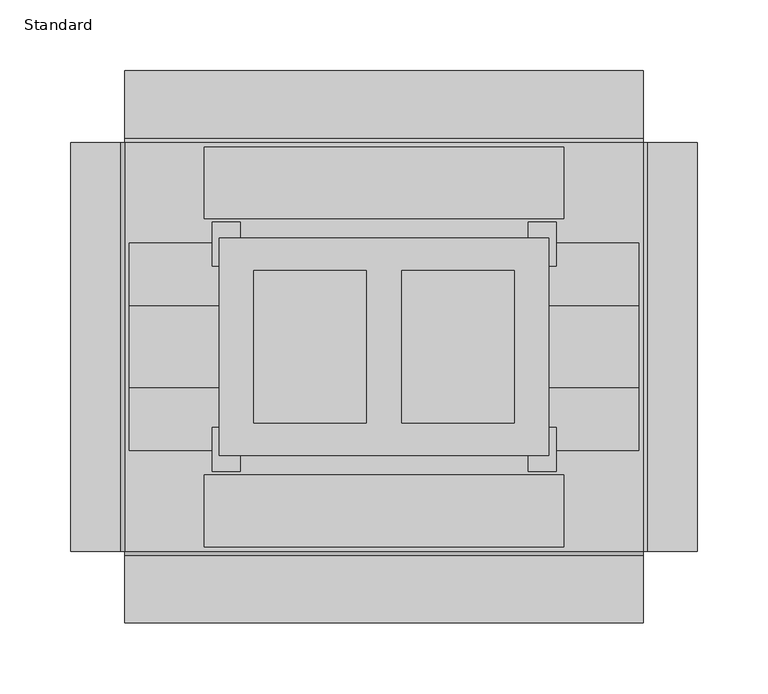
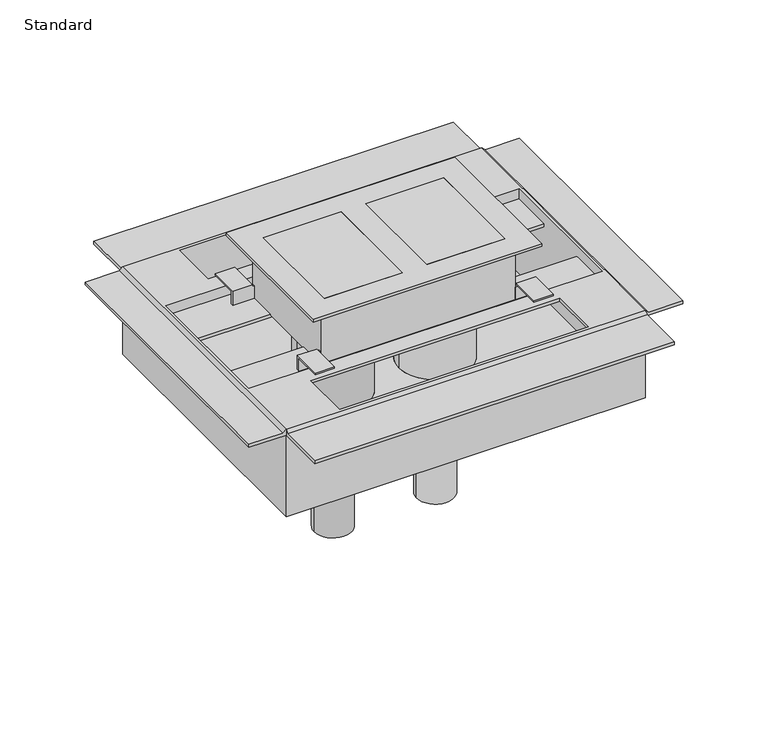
"""IFC4 building model written with IfcOpenShell, lengths in millimetres: proxy geometry, Floor_Box-OmniBox_Series-Wiremold-880_Steel-2_Gang-Fire_Classified : Standard."""

import ifcopenshell
import ifcopenshell.guid

model = None  # the IFC model being written
_history = None  # IfcOwnerHistory: only IFC2X3 demands one
_inside = {}  # id of a spatial element -> (the spatial element, [elements in it])
_under = {}  # id of a project, library or spatial element -> (it, [spatial elements below it])
_declared = {}  # id of a project -> (the project, [libraries it declares])
_typed = {}  # id of a type object -> (the type object, [elements of that type])
_made_of = {}  # id of a material, layer set ... -> (it, [elements and type objects made of it])


def new_model(schema):
    """Start an empty IFC model of exactly this schema.

    Asked for "IFC4X3", IfcOpenShell would pick the latest addendum, in which some entities
    have other attributes; the version numbers below select the first issue.
    IFC2X3 requires an IfcOwnerHistory on every rooted entity: one is made here for all.
    """
    global model, _history
    if schema == "IFC4X3":
        model = ifcopenshell.file(schema_version=(4, 3, 0, 0))
    else:
        model = ifcopenshell.file(schema=schema)
    _inside.clear()
    _under.clear()
    _declared.clear()
    _typed.clear()
    _made_of.clear()
    _history = None
    if model.schema == "IFC2X3":
        org = make("IfcOrganization", Name="unknown")
        user = make(
            "IfcPersonAndOrganization",
            ThePerson=make("IfcPerson", FamilyName="unknown"),
            TheOrganization=org,
        )
        app = make(
            "IfcApplication",
            ApplicationDeveloper=org,
            Version="unknown",
            ApplicationFullName="unknown",
            ApplicationIdentifier="unknown",
        )
        _history = make(
            "IfcOwnerHistory",
            OwningUser=user,
            OwningApplication=app,
            ChangeAction="ADDED",
            CreationDate=0,
        )
    return model


def make(cls, **values):
    """One entity of the class cls with the attributes given. An attribute that is None is left unset."""
    return model.create_entity(
        cls, **{name: value for name, value in values.items() if value is not None}
    )


def rooted(cls, **values):
    """An entity with a GlobalId (a new one), such as an element, a storey or a relation."""
    return make(cls, GlobalId=ifcopenshell.guid.new(), OwnerHistory=_history, **values)


def si_unit(unit_type, name, prefix=None):
    """IfcSIUnit, for example si_unit("LENGTHUNIT", "METRE", prefix="MILLI")."""
    return make("IfcSIUnit", UnitType=unit_type, Prefix=prefix, Name=name)


def assignment(units):
    """IfcUnitAssignment: the units of a project."""
    return None if units is None else make("IfcUnitAssignment", Units=units)


def point(xyz):
    """IfcCartesianPoint."""
    return None if xyz is None else make("IfcCartesianPoint", Coordinates=xyz)


def direction(xyz):
    """IfcDirection."""
    return None if xyz is None else make("IfcDirection", DirectionRatios=xyz)


def frame(location, z_axis=None, x_axis=None):
    """IfcAxis2Placement3D, a coordinate frame: its origin and axes. An axis left out is left unset."""
    return make(
        "IfcAxis2Placement3D",
        Location=point(location),
        Axis=direction(z_axis),
        RefDirection=direction(x_axis),
    )


def origin():
    """The frame at (0, 0, 0) with its axes left unset."""
    return frame((0.0, 0.0, 0.0))


def origin_with_axes():
    """The frame at (0, 0, 0) with the z axis (0, 0, 1) and the x axis (1, 0, 0) written out."""
    return frame((0.0, 0.0, 0.0), z_axis=(0.0, 0.0, 1.0), x_axis=(1.0, 0.0, 0.0))


def place(relative_to, where):
    """IfcLocalPlacement: puts the frame where relative to a parent placement (None: the world)."""
    return make(
        "IfcLocalPlacement", PlacementRelTo=relative_to, RelativePlacement=where
    )


def context(
    kind, dimensions, precision=None, world=None, true_north=None, identifier=None
):
    """IfcGeometricRepresentationContext, for example the 3D "Model" context."""
    return make(
        "IfcGeometricRepresentationContext",
        ContextIdentifier=identifier,
        ContextType=kind,
        CoordinateSpaceDimension=dimensions,
        Precision=precision,
        WorldCoordinateSystem=world,
        TrueNorth=true_north,
    )


def project(units=None, contexts=None):
    """IfcProject with its units and contexts."""
    return rooted(
        "IfcProject",
        Name="project",
        RepresentationContexts=contexts,
        UnitsInContext=assignment(units),
    )


def spatial(cls, under=None, at=None, **own):
    """A site, building, storey or space (cls), placed at a placement, below another one or the project."""
    s = rooted(cls, ObjectPlacement=at, **own)
    if under is not None:
        _under.setdefault(under.id(), (under, []))[1].append(s)
    return s


def polyline(points):
    """IfcPolyline through the points."""
    return make("IfcPolyline", Points=[point(p) for p in points])


def circle_curve(where, radius):
    """IfcCircle in the frame where."""
    return make("IfcCircle", Position=where, Radius=radius)


def outline(outer, holes=None, kind="AREA"):
    """IfcArbitraryClosedProfileDef: a profile drawn as a closed curve; with holes, ...WithVoids."""
    if holes is None:
        return make("IfcArbitraryClosedProfileDef", ProfileType=kind, OuterCurve=outer)
    return make(
        "IfcArbitraryProfileDefWithVoids",
        ProfileType=kind,
        OuterCurve=outer,
        InnerCurves=holes,
    )


def extrude(swept, where, along, depth):
    """IfcExtrudedAreaSolid: the profile swept, set in the frame where, extruded along a direction by depth."""
    return make(
        "IfcExtrudedAreaSolid",
        SweptArea=swept,
        Position=where,
        ExtrudedDirection=direction(along),
        Depth=depth,
    )


def faces_of(points, faces, orient=None, outer=None):
    """IfcFace entities. A face is a list of loops; a loop is a list of indices into points, from 0.

    orient and outer hold one flag for each loop. By default every Orientation is true, the
    first loop of a face is its IfcFaceOuterBound and the others are IfcFaceBound.
    """
    made = []
    for i, loops in enumerate(faces):
        bounds = []
        for j, loop in enumerate(loops):
            is_outer = j == 0 if outer is None else outer[i][j]
            bounds.append(
                make(
                    "IfcFaceOuterBound" if is_outer else "IfcFaceBound",
                    Bound=make("IfcPolyLoop", Polygon=[points[k] for k in loop]),
                    Orientation=True if orient is None else orient[i][j],
                )
            )
        made.append(make("IfcFace", Bounds=bounds))
    return made


def faceted_brep(points, faces, orient=None, outer=None, voids=None):
    """IfcFacetedBrep: a solid bounded by flat faces; with voids (closed shells), ...WithVoids."""
    shared = [point(p) for p in points]
    hull = make("IfcClosedShell", CfsFaces=faces_of(shared, faces, orient, outer))
    if voids is None:
        return make("IfcFacetedBrep", Outer=hull)
    return make(
        "IfcFacetedBrepWithVoids",
        Outer=hull,
        Voids=[
            make(cls, CfsFaces=faces_of(shared, fs, o, b)) for cls, fs, o, b in voids
        ],
    )


def shape(context_of_items, identifier, shape_type, items):
    """IfcShapeRepresentation: the items that make up one representation, for example the "Body"."""
    return make(
        "IfcShapeRepresentation",
        ContextOfItems=context_of_items,
        RepresentationIdentifier=identifier,
        RepresentationType=shape_type,
        Items=items,
    )


def source(mapping_origin, context_of_items, identifier, shape_type, items):
    """IfcRepresentationMap: a shape defined once, which mapped items show again and again."""
    return make(
        "IfcRepresentationMap",
        MappingOrigin=mapping_origin,
        MappedRepresentation=shape(context_of_items, identifier, shape_type, items),
    )


def transform(
    local_origin,
    x_axis=None,
    y_axis=None,
    z_axis=None,
    scale=None,
    scale2=None,
    scale3=None,
    uniform=True,
):
    """IfcCartesianTransformationOperator3D, or its non-uniform kind. x_axis, y_axis, z_axis: its Axis1, 2, 3."""
    if uniform:
        return make(
            "IfcCartesianTransformationOperator3D",
            Axis1=direction(x_axis),
            Axis2=direction(y_axis),
            LocalOrigin=point(local_origin),
            Scale=scale,
            Axis3=direction(z_axis),
        )
    return make(
        "IfcCartesianTransformationOperator3DnonUniform",
        Axis1=direction(x_axis),
        Axis2=direction(y_axis),
        LocalOrigin=point(local_origin),
        Scale=scale,
        Axis3=direction(z_axis),
        Scale2=scale2,
        Scale3=scale3,
    )


def mapped(mapping_source, mapping_target):
    """IfcMappedItem: shows the shape of a source again, moved by a transform."""
    return make(
        "IfcMappedItem", MappingSource=mapping_source, MappingTarget=mapping_target
    )


def made_of(thing, what):
    """Note that an element or type object is made of a material, layer set ...; save() writes the relation."""
    if what is not None:
        _made_of.setdefault(what.id(), (what, []))[1].append(thing)
    return thing


def element(
    cls,
    number,
    at=None,
    inside=None,
    cuts=None,
    type_object=None,
    material=None,
    context=None,
    identifier="Body",
    shape_type=None,
    held_by="IfcProductDefinitionShape",
    body=None,
    shapes=None,
    **own,
):
    """One element of the class cls, such as IfcWall. Its Tag is "e" and its number.

    at: its placement. inside: the storey or other place that contains it. cuts: it is an
    opening in that element (IfcRelVoidsElement). A single representation is given by context,
    identifier, shape_type and body (its items); several are given by shapes. held_by: the class
    of the entity that holds the representations. save() writes the other relations.
    """
    e = rooted(cls, Tag="e%d" % number, ObjectPlacement=at, **own)
    if body is not None:
        shapes = [shape(context, identifier, shape_type, body)]
    if shapes is not None:
        e.Representation = make(held_by, Representations=shapes)
    if inside is not None:
        _inside.setdefault(inside.id(), (inside, []))[1].append(e)
    if cuts is not None:
        rooted(
            "IfcRelVoidsElement", RelatingBuildingElement=cuts, RelatedOpeningElement=e
        )
    if type_object is not None:
        _typed.setdefault(type_object.id(), (type_object, []))[1].append(e)
    return made_of(e, material)


def aggregate(whole, parts):
    """IfcRelAggregates: a whole, such as a stair, and the parts it consists of."""
    return rooted("IfcRelAggregates", RelatingObject=whole, RelatedObjects=parts)


def save(model, path):
    """Write the relations noted so far, then the file.

    IfcRelAggregates (storeys below a building ...), IfcRelContainedInSpatialStructure (elements
    in a storey), IfcRelDefinesByType, IfcRelAssociatesMaterial and IfcRelDeclares: one each for
    every whole, place, type object, material and project.
    """
    for whole, parts in _under.values():
        aggregate(whole, parts)
    for where, things in _inside.values():
        rooted(
            "IfcRelContainedInSpatialStructure",
            RelatedElements=things,
            RelatingStructure=where,
        )
    for kind, things in _typed.values():
        rooted("IfcRelDefinesByType", RelatedObjects=things, RelatingType=kind)
    for what, things in _made_of.values():
        rooted("IfcRelAssociatesMaterial", RelatedObjects=things, RelatingMaterial=what)
    for by, libraries in _declared.values():
        rooted("IfcRelDeclares", RelatingContext=by, RelatedDefinitions=libraries)
    model.write(path)


def plane_surface(at):
    """IfcPlane: the flat surface through the origin of the frame at, square to its z axis."""
    return make("IfcPlane", Position=at)


def cylinder_surface(at, radius):
    """IfcCylindricalSurface: all points at the distance radius from the z axis of the frame at."""
    return make("IfcCylindricalSurface", Position=at, Radius=radius)


def advanced_brep(points, edges, surfaces, faces):
    """IfcAdvancedBrep: a solid bounded by faces that lie on surfaces and meet in shared edges.

    An edge is (start, end): straight between two places in points (the first is 0);
    or (start, end, curve); or (start, end, curve, False) where it runs against its curve.
    A face is (place in surfaces, loops), or (place, loops, False) where it looks against
    its surface's normal. A loop lists edges by number (the first is 1), with a minus sign
    where the edge is run from its end to its start. The first loop is the outer one.
    """
    corners = [point(p) for p in points]
    vertices = [make("IfcVertexPoint", VertexGeometry=c) for c in corners]
    made = []
    for start, end, *more in edges:
        made.append(
            make(
                "IfcEdgeCurve",
                EdgeStart=vertices[start],
                EdgeEnd=vertices[end],
                EdgeGeometry=more[0] if more else make("IfcPolyline", Points=[corners[start], corners[end]]),
                SameSense=more[1] if len(more) > 1 else True,
            )
        )
    hull = []
    for where, loops, *sense in faces:
        bounds = []
        for j, loop in enumerate(loops):
            ring = [make("IfcOrientedEdge", EdgeElement=made[abs(k) - 1], Orientation=k > 0) for k in loop]
            bounds.append(
                make(
                    "IfcFaceOuterBound" if j == 0 else "IfcFaceBound",
                    Bound=make("IfcEdgeLoop", EdgeList=ring),
                    Orientation=True,
                )
            )
        hull.append(make("IfcAdvancedFace", Bounds=bounds, FaceSurface=surfaces[where], SameSense=sense[0] if sense else True))
    return make("IfcAdvancedBrep", Outer=make("IfcClosedShell", CfsFaces=hull))


def standard_f115a3e9(model_context):
    return source(origin(), model_context, "Body", "SolidModel", [
        extrude(outline(polyline([(12.7127, 53.975), (92.0877, 53.975), (92.0877, -53.975), (12.7127, -53.975), (12.7127, 53.975)])), frame((0.0, 0.0, -9.525), z_axis=(0.0, 0.0, 1.0), x_axis=(1.0, 0.0, 0.0)), (0.0, 0.0, 1.0), 12.7),
        extrude(outline(polyline([(-92.0877, 53.975), (-12.7127, 53.975), (-12.7127, -53.975), (-92.0877, -53.975), (-92.0877, 53.975)])), frame((0.0, 0.0, -9.525), z_axis=(0.0, 0.0, 1.0), x_axis=(1.0, 0.0, 0.0)), (0.0, 0.0, 1.0), 12.7),
        extrude(outline(polyline([(116.6876, 77.0001), (116.6876, -77.0001), (-116.6876, -77.0001), (-116.6876, 77.0001), (116.6876, 77.0001)]), holes=[polyline([(92.0877, 53.975), (12.7127, 53.975), (12.7127, -53.975), (92.0877, -53.975), (92.0877, 53.975)]), polyline([(-12.7127, 53.975), (-92.0877, 53.975), (-92.0877, -53.975), (-12.7127, -53.975), (-12.7127, 53.975)])]), origin_with_axes(), (0.0, 0.0, 1.0), 3.175),
        advanced_brep(
        [(183.515, 144.653, -57.4802), (183.515, 144.653, -145.7452), (-183.515, 144.653, -145.7452), (-183.515, 144.653, -57.4802), (-221.615, 144.653, -57.4802), (-221.615, 144.653, -54.3052), (-186.69, 144.653, -54.3052), (-183.515, 144.653, -51.1302), (183.515, 144.653, -51.1302), (186.69, 144.653, -54.3052), (221.615, 144.653, -54.3052), (221.615, 144.653, -57.4802), (183.515, -144.653, -57.4802), (221.615, -144.653, -57.4802), (221.615, -144.653, -54.3052), (186.69, -144.653, -54.3052), (183.515, -144.653, -51.1302), (-183.515, -144.653, -51.1302), (-186.69, -144.653, -54.3052), (-221.615, -144.653, -54.3052), (-221.615, -144.653, -57.4802), (-183.515, -144.653, -57.4802), (-183.515, -144.653, -145.7452), (183.515, -144.653, -145.7452), (183.515, -141.478, -57.4802), (183.515, -76.708, -57.4802), (183.515, -73.533, -57.4802), (183.515, 73.533, -57.4802), (183.515, 76.708, -57.4802), (183.515, 141.478, -57.4802), (180.34, 141.478, -142.5702), (180.34, -141.478, -142.5702), (180.34, -141.478, -57.4802), (180.34, -138.303, -54.3052), (180.34, -76.708, -54.3052), (180.34, -76.708, -65.1002), (180.34, -29.083, -65.1002), (180.34, -29.083, -61.9252), (180.34, -73.533, -61.9252), (180.34, -73.533, -51.1302), (180.34, 73.533, -51.1302), (180.34, 73.533, -61.9252), (180.34, 29.083, -61.9252), (180.34, 29.083, -65.1002), (180.34, 76.708, -65.1002), (180.34, 76.708, -54.3052), (180.34, 138.303, -54.3052), (180.34, 141.478, -57.4802), (-180.34, 141.478, -142.5702), (-180.34, -141.478, -142.5702), (88.773, 0.0, -142.5702), (15.621, 0.0, -142.5702), (-15.621, 0.0, -142.5702), (-88.773, 0.0, -142.5702), (-180.34, 141.478, -57.4802), (-180.34, 138.303, -54.3052), (-180.34, 76.708, -54.3052), (-180.34, 76.708, -65.1002), (-180.34, 29.083, -65.1002), (-180.34, 29.083, -61.9252), (-180.34, 73.533, -61.9252), (-180.34, 73.533, -51.1302), (-180.34, -73.533, -51.1302), (-180.34, -73.533, -61.9252), (-180.34, -29.083, -61.9252), (-180.34, -29.083, -65.1002), (-180.34, -76.708, -65.1002), (-180.34, -76.708, -54.3052), (-180.34, -138.303, -54.3052), (-180.34, -141.478, -57.4802), (-183.515, 141.478, -57.4802), (-183.515, 76.708, -57.4802), (-183.515, 73.533, -57.4802), (-183.515, -73.533, -57.4802), (-183.515, -76.708, -57.4802), (-183.515, -141.478, -57.4802), (15.621, 0.0, -145.7452), (88.773, 0.0, -145.7452), (-88.773, 0.0, -145.7452), (-15.621, 0.0, -145.7452), (127.0, 90.678, -51.1302), (-127.0, 90.678, -51.1302), (-127.0, 141.478, -51.1302), (127.0, 141.478, -51.1302), (-127.0, -141.478, -51.1302), (-127.0, -90.678, -51.1302), (127.0, -90.678, -51.1302), (127.0, -141.478, -51.1302), (-183.515, -147.828, -54.3052), (-183.515, -195.453, -57.4802), (-183.515, -195.453, -54.3052), (-183.515, 147.828, -54.3052), (-183.515, 195.453, -54.3052), (-183.515, 195.453, -57.4802), (183.515, -147.828, -54.3052), (183.515, -195.453, -54.3052), (183.515, -195.453, -57.4802), (183.515, 195.453, -57.4802), (183.515, 195.453, -54.3052), (183.515, 147.828, -54.3052), (-127.0, -141.478, -57.4802), (127.0, -141.478, -57.4802), (127.0, 141.478, -57.4802), (-127.0, 141.478, -57.4802), (127.0, -138.303, -54.3052), (127.0, -90.678, -54.3052), (-127.0, -90.678, -54.3052), (-127.0, -138.303, -54.3052), (127.0, 138.303, -54.3052), (-127.0, 138.303, -54.3052), (-127.0, 90.678, -54.3052), (127.0, 90.678, -54.3052), (33.147, 0.0, -212.8012), (71.247, 0.0, -212.8012), (88.773, 0.0, -212.8012), (15.621, 0.0, -212.8012), (88.773, 0.0, -75.0062), (15.621, 0.0, -75.0062), (52.197, 0.0, -289.0012), (71.247, 0.0, -289.0012), (33.147, 0.0, -289.0012), (52.197, 0.0, -75.0062), (-15.621, 0.0, -212.8012), (-88.773, 0.0, -212.8012), (-71.247, 0.0, -212.8012), (-33.147, 0.0, -212.8012), (-15.621, 0.0, -75.0062), (-88.773, 0.0, -75.0062), (-33.147, 0.0, -289.0012), (-71.247, 0.0, -289.0012), (-52.197, 0.0, -289.0012), (-52.197, 0.0, -75.0062)],
        [
            (0, 1),
            (1, 2),
            (2, 3),
            (3, 0),
            (3, 4),
            (4, 5),
            (5, 6),
            (6, 7),
            (7, 3),
            (8, 9),
            (9, 10),
            (10, 11),
            (11, 0),
            (0, 8),
            (12, 13),
            (13, 14),
            (14, 15),
            (15, 16),
            (16, 12),
            (17, 18),
            (18, 19),
            (19, 20),
            (20, 21),
            (21, 17),
            (21, 22),
            (22, 23),
            (23, 12),
            (12, 21),
            (11, 13),
            (12, 24),
            (24, 25),
            (25, 26),
            (26, 27),
            (27, 28),
            (28, 29),
            (29, 0),
            (10, 14),
            (9, 15),
            (30, 31),
            (31, 32),
            (32, 33),
            (33, 34),
            (34, 35),
            (35, 36),
            (36, 37),
            (37, 38),
            (38, 39),
            (39, 40),
            (40, 41),
            (41, 42),
            (42, 43),
            (43, 44),
            (44, 45),
            (45, 46),
            (46, 47),
            (47, 30),
            (30, 48),
            (48, 49),
            (49, 31),
            (50, 51, circle_curve(frame((52.197, 0.0, -142.5702), z_axis=(0.0, 0.0, -1.0), x_axis=(1.0, 0.0, 0.0)), 36.576)),
            (51, 50, circle_curve(frame((52.197, 0.0, -142.5702), z_axis=(0.0, 0.0, -1.0), x_axis=(1.0, 0.0, 0.0)), 36.576)),
            (52, 53, circle_curve(frame((-52.197, 0.0, -142.5702), z_axis=(0.0, 0.0, -1.0), x_axis=(-1.0, 0.0, 0.0)), 36.576)),
            (53, 52, circle_curve(frame((-52.197, 0.0, -142.5702), z_axis=(0.0, 0.0, -1.0), x_axis=(-1.0, 0.0, 0.0)), 36.576)),
            (48, 54),
            (54, 55),
            (55, 56),
            (56, 57),
            (57, 58),
            (58, 59),
            (59, 60),
            (60, 61),
            (61, 62),
            (62, 63),
            (63, 64),
            (64, 65),
            (65, 66),
            (66, 67),
            (67, 68),
            (68, 69),
            (69, 49),
            (5, 19),
            (18, 6),
            (4, 20),
            (3, 70),
            (70, 71),
            (71, 72),
            (72, 73),
            (73, 74),
            (74, 75),
            (75, 21),
            (2, 22),
            (1, 23),
            (76, 77, circle_curve(frame((52.197, 0.0, -145.7452), z_axis=(0.0, 0.0, 1.0), x_axis=(1.0, 0.0, 0.0)), 36.576)),
            (77, 76, circle_curve(frame((52.197, 0.0, -145.7452), z_axis=(0.0, 0.0, 1.0), x_axis=(1.0, 0.0, 0.0)), 36.576)),
            (78, 79, circle_curve(frame((-52.197, 0.0, -145.7452), z_axis=(0.0, 0.0, 1.0), x_axis=(-1.0, 0.0, 0.0)), 36.576)),
            (79, 78, circle_curve(frame((-52.197, 0.0, -145.7452), z_axis=(0.0, 0.0, 1.0), x_axis=(-1.0, 0.0, 0.0)), 36.576)),
            (17, 7),
            (17, 16),
            (16, 8),
            (8, 7),
            (61, 40),
            (39, 62),
            (80, 81),
            (81, 82),
            (82, 83),
            (83, 80),
            (84, 85),
            (85, 86),
            (86, 87),
            (87, 84),
            (88, 17),
            (21, 89),
            (89, 90),
            (90, 88),
            (7, 91),
            (91, 92),
            (92, 93),
            (93, 3),
            (94, 95),
            (95, 96),
            (96, 12),
            (16, 94),
            (0, 97),
            (97, 98),
            (98, 99),
            (99, 8),
            (69, 100),
            (100, 84),
            (87, 101),
            (101, 32),
            (47, 102),
            (102, 83),
            (82, 103),
            (103, 54),
            (91, 99),
            (98, 92),
            (97, 93),
            (96, 89),
            (95, 90),
            (94, 88),
            (38, 63),
            (37, 64),
            (36, 65),
            (35, 66),
            (34, 67),
            (33, 104),
            (104, 105),
            (105, 106),
            (106, 107),
            (107, 68),
            (101, 104),
            (107, 100),
            (46, 108),
            (108, 102),
            (103, 109),
            (109, 55),
            (45, 56),
            (109, 110),
            (110, 111),
            (111, 108),
            (44, 57),
            (43, 58),
            (42, 59),
            (41, 60),
            (112, 113, circle_curve(frame((52.197, 0.0, -212.8012), z_axis=(0.0, 0.0, 1.0), x_axis=(1.0, 0.0, 0.0)), 19.05)),
            (113, 114),
            (114, 115, circle_curve(frame((52.197, 0.0, -212.8012), z_axis=(0.0, 0.0, -1.0), x_axis=(1.0, 0.0, 0.0)), 36.576)),
            (115, 112),
            (113, 112, circle_curve(frame((52.197, 0.0, -212.8012), z_axis=(0.0, 0.0, 1.0), x_axis=(1.0, 0.0, 0.0)), 19.05)),
            (115, 114, circle_curve(frame((52.197, 0.0, -212.8012), z_axis=(0.0, 0.0, -1.0), x_axis=(1.0, 0.0, 0.0)), 36.576)),
            (114, 77),
            (76, 115),
            (116, 117, circle_curve(frame((52.197, 0.0, -75.0062), z_axis=(0.0, 0.0, -1.0), x_axis=(1.0, 0.0, 0.0)), 36.576)),
            (117, 51),
            (50, 116),
            (117, 116, circle_curve(frame((52.197, 0.0, -75.0062), z_axis=(0.0, 0.0, -1.0), x_axis=(1.0, 0.0, 0.0)), 36.576)),
            (118, 119),
            (119, 120, circle_curve(frame((52.197, 0.0, -289.0012), z_axis=(0.0, 0.0, -1.0), x_axis=(1.0, 0.0, 0.0)), 19.05)),
            (120, 118),
            (120, 119, circle_curve(frame((52.197, 0.0, -289.0012), z_axis=(0.0, 0.0, -1.0), x_axis=(1.0, 0.0, 0.0)), 19.05)),
            (112, 120),
            (119, 113),
            (116, 121),
            (121, 117),
            (122, 123, circle_curve(frame((-52.197, 0.0, -212.8012), z_axis=(0.0, 0.0, -1.0), x_axis=(-1.0, 0.0, 0.0)), 36.576)),
            (123, 124),
            (124, 125, circle_curve(frame((-52.197, 0.0, -212.8012), z_axis=(0.0, 0.0, 1.0), x_axis=(-1.0, 0.0, 0.0)), 19.05)),
            (125, 122),
            (123, 122, circle_curve(frame((-52.197, 0.0, -212.8012), z_axis=(0.0, 0.0, -1.0), x_axis=(-1.0, 0.0, 0.0)), 36.576)),
            (125, 124, circle_curve(frame((-52.197, 0.0, -212.8012), z_axis=(0.0, 0.0, 1.0), x_axis=(-1.0, 0.0, 0.0)), 19.05)),
            (122, 79),
            (78, 123),
            (126, 127, circle_curve(frame((-52.197, 0.0, -75.0062), z_axis=(0.0, 0.0, -1.0), x_axis=(-1.0, 0.0, 0.0)), 36.576)),
            (127, 53),
            (52, 126),
            (127, 126, circle_curve(frame((-52.197, 0.0, -75.0062), z_axis=(0.0, 0.0, -1.0), x_axis=(-1.0, 0.0, 0.0)), 36.576)),
            (128, 129, circle_curve(frame((-52.197, 0.0, -289.0012), z_axis=(0.0, 0.0, -1.0), x_axis=(-1.0, 0.0, 0.0)), 19.05)),
            (129, 130),
            (130, 128),
            (129, 128, circle_curve(frame((-52.197, 0.0, -289.0012), z_axis=(0.0, 0.0, -1.0), x_axis=(-1.0, 0.0, 0.0)), 19.05)),
            (124, 129),
            (128, 125),
            (126, 131),
            (131, 127),
            (110, 81),
            (80, 111),
            (106, 85),
            (86, 105),
        ],
        [
            plane_surface(frame((183.515, 144.653, -145.7452), z_axis=(0.0, 1.0, 0.0), x_axis=(0.0, 0.0, -1.0))),
            plane_surface(frame((183.515, -144.653, -145.7452), z_axis=(0.0, -1.0, 0.0), x_axis=(0.0, 0.0, 1.0))),
            plane_surface(frame((221.615, 144.653, -57.4802), z_axis=(0.0, 0.0, -1.0), x_axis=(0.0, -1.0, 0.0))),
            plane_surface(frame((221.615, 144.653, -54.3052), z_axis=(1.0, 0.0, 0.0), x_axis=(0.0, -1.0, 0.0))),
            plane_surface(frame((186.69, 144.653, -54.3052), z_axis=(0.0, 0.0, 1.0), x_axis=(0.0, -1.0, 0.0))),
            plane_surface(frame((180.34, 144.653, -142.5702), z_axis=(-1.0, 0.0, 0.0), x_axis=(0.0, -1.0, 0.0))),
            plane_surface(frame((-180.34, 144.653, -142.5702), z_axis=(0.0, 0.0, 1.0), x_axis=(0.0, -1.0, 0.0))),
            plane_surface(frame((-180.34, 144.653, -51.1302), z_axis=(1.0, 0.0, 0.0), x_axis=(0.0, -1.0, 0.0))),
            plane_surface(frame((-221.615, 144.653, -54.3052), z_axis=(0.0, 0.0, 1.0), x_axis=(0.0, -1.0, 0.0))),
            plane_surface(frame((-221.615, 144.653, -57.4802), z_axis=(-1.0, 0.0, 0.0), x_axis=(0.0, -1.0, 0.0))),
            plane_surface(frame((-183.515, 144.653, -57.4802), z_axis=(0.0, 0.0, -1.0), x_axis=(0.0, -1.0, 0.0))),
            plane_surface(frame((-183.515, 144.653, -145.7452), z_axis=(-1.0, 0.0, 0.0), x_axis=(0.0, -1.0, 0.0))),
            plane_surface(frame((183.515, 144.653, -145.7452), z_axis=(0.0, 0.0, -1.0), x_axis=(0.0, -1.0, 0.0))),
            plane_surface(frame((183.515, 144.653, -57.4802), z_axis=(1.0, 0.0, 0.0), x_axis=(0.0, -1.0, 0.0))),
            plane_surface(frame((-186.69, 144.653, -54.3052), z_axis=(-0.7071067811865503, 0.0, 0.7071067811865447), x_axis=(0.0, -1.0, 0.0))),
            plane_surface(frame((-183.515, 144.653, -51.1302), z_axis=(0.0, 0.0, 1.0), x_axis=(0.0, -1.0, 0.0))),
            plane_surface(frame((183.515, 144.653, -51.1302), z_axis=(0.707106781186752, 0.0, 0.7071067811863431), x_axis=(0.0, -1.0, 0.0))),
            plane_surface(frame((-183.515, -147.828, -54.3052), z_axis=(-1.0, 0.0, 0.0), x_axis=(0.0, 0.7071067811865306, 0.7071067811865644))),
            plane_surface(frame((183.515, -147.828, -54.3052), z_axis=(1.0, 0.0, 0.0), x_axis=(0.0, -0.7071067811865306, -0.7071067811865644))),
            plane_surface(frame((-183.515, -141.478, -57.4802), z_axis=(0.0, 1.0, 0.0), x_axis=(1.0, 0.0, 0.0))),
            plane_surface(frame((-183.515, 141.478, -142.5702), z_axis=(0.0, -1.0, 0.0), x_axis=(1.0, 0.0, 0.0))),
            plane_surface(frame((-183.515, 147.828, -54.3052), z_axis=(0.0, 0.0, 1.0), x_axis=(1.0, 0.0, 0.0))),
            plane_surface(frame((-183.515, 195.453, -54.3052), z_axis=(0.0, 1.0, 0.0), x_axis=(1.0, 0.0, 0.0))),
            plane_surface(frame((-183.515, 195.453, -57.4802), z_axis=(0.0, 0.0, -1.0), x_axis=(1.0, 0.0, 0.0))),
            plane_surface(frame((-183.515, -144.653, -57.4802), z_axis=(0.0, 0.0, -1.0), x_axis=(1.0, 0.0, 0.0))),
            plane_surface(frame((-183.515, -195.453, -57.4802), z_axis=(0.0, -1.0, 0.0), x_axis=(1.0, 0.0, 0.0))),
            plane_surface(frame((-183.515, -195.453, -54.3052), z_axis=(0.0, 0.0, 1.0), x_axis=(1.0, 0.0, 0.0))),
            plane_surface(frame((-183.515, -147.828, -54.3052), z_axis=(0.0, -0.7071067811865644, 0.7071067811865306), x_axis=(1.0, 0.0, 0.0))),
            plane_surface(frame((-183.515, -73.533, -51.1302), z_axis=(0.0, 1.0, 0.0), x_axis=(1.0, 0.0, 0.0))),
            plane_surface(frame((-183.515, -73.533, -61.9252), z_axis=(0.0, 0.0, 1.0), x_axis=(1.0, 0.0, 0.0))),
            plane_surface(frame((-183.515, -29.083, -61.9252), z_axis=(0.0, 1.0, 0.0), x_axis=(1.0, 0.0, 0.0))),
            plane_surface(frame((-183.515, -29.083, -65.1002), z_axis=(0.0, 0.0, -1.0), x_axis=(1.0, 0.0, 0.0))),
            plane_surface(frame((-183.515, -76.708, -65.1002), z_axis=(0.0, -1.0, 0.0), x_axis=(1.0, 0.0, 0.0))),
            plane_surface(frame((-183.515, -76.708, -54.3052), z_axis=(0.0, 0.0, -1.0), x_axis=(1.0, 0.0, 0.0))),
            plane_surface(frame((-183.515, -138.303, -54.3052), z_axis=(0.0, 0.7071067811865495, -0.7071067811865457), x_axis=(1.0, 0.0, 0.0))),
            plane_surface(frame((-183.515, 141.478, -57.4802), z_axis=(0.0, -0.7071067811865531, -0.7071067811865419), x_axis=(1.0, 0.0, 0.0))),
            plane_surface(frame((-183.515, 138.303, -54.3052), z_axis=(0.0, 0.0, -1.0), x_axis=(1.0, 0.0, 0.0))),
            plane_surface(frame((-183.515, 76.708, -54.3052), z_axis=(0.0, 1.0, 0.0), x_axis=(1.0, 0.0, 0.0))),
            plane_surface(frame((-183.515, 76.708, -65.1002), z_axis=(0.0, 0.0, -1.0), x_axis=(1.0, 0.0, 0.0))),
            plane_surface(frame((-183.515, 29.083, -65.1002), z_axis=(0.0, -1.0, 0.0), x_axis=(1.0, 0.0, 0.0))),
            plane_surface(frame((-183.515, 29.083, -61.9252), z_axis=(0.0, 0.0, 1.0), x_axis=(1.0, 0.0, 0.0))),
            plane_surface(frame((-183.515, 73.533, -61.9252), z_axis=(0.0, -1.0, 0.0), x_axis=(1.0, 0.0, 0.0))),
            plane_surface(frame((-183.515, 144.653, -51.1302), z_axis=(0.0, 0.7071067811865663, 0.7071067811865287), x_axis=(1.0, 0.0, 0.0))),
            plane_surface(frame((52.197, 0.0, -212.8012), z_axis=(0.0, 0.0, -1.0), x_axis=(1.0, 0.0, 0.0))),
            cylinder_surface(frame((52.197, 0.0, 222.1738), z_axis=(0.0, 0.0, -1.0), x_axis=(1.0, 0.0, 0.0)), 36.576),
            plane_surface(frame((52.197, 0.0, -289.0012), z_axis=(0.0, 0.0, -1.0), x_axis=(1.0, 0.0, 0.0))),
            cylinder_surface(frame((52.197, 0.0, 222.1738), z_axis=(0.0, 0.0, -1.0), x_axis=(1.0, 0.0, 0.0)), 19.05),
            plane_surface(frame((52.197, 0.0, -75.0062), z_axis=(0.0, 0.0, 1.0), x_axis=(1.0, 0.0, 0.0))),
            plane_surface(frame((-52.197, 0.0, -212.8012), z_axis=(0.0, 0.0, -1.0), x_axis=(-1.0, 0.0, 0.0))),
            cylinder_surface(frame((-52.197, 0.0, 222.1738), z_axis=(0.0, 0.0, 1.0), x_axis=(-1.0, 0.0, 0.0)), 36.576),
            plane_surface(frame((-52.197, 0.0, -289.0012), z_axis=(0.0, 0.0, -1.0), x_axis=(-1.0, 0.0, 0.0))),
            cylinder_surface(frame((-52.197, 0.0, 222.1738), z_axis=(0.0, 0.0, 1.0), x_axis=(-1.0, 0.0, 0.0)), 19.05),
            plane_surface(frame((-52.197, 0.0, -75.0062), z_axis=(0.0, 0.0, 1.0), x_axis=(-1.0, 0.0, 0.0))),
            plane_surface(frame((-127.0, 90.678, 307.975), z_axis=(0.0, 1.0, 0.0), x_axis=(0.0, 0.0, -1.0))),
            plane_surface(frame((127.0, 90.678, 307.975), z_axis=(-1.0, 0.0, 0.0), x_axis=(0.0, 0.0, -1.0))),
            plane_surface(frame((-127.0, 141.478, 307.975), z_axis=(1.0, 0.0, 0.0), x_axis=(0.0, 0.0, -1.0))),
            plane_surface(frame((-127.0, -90.678, 307.975), z_axis=(1.0, 0.0, 0.0), x_axis=(0.0, 0.0, -1.0))),
            plane_surface(frame((127.0, -141.478, 307.975), z_axis=(-1.0, 0.0, 0.0), x_axis=(0.0, 0.0, -1.0))),
            plane_surface(frame((127.0, -90.678, 307.975), z_axis=(0.0, -1.0, 0.0), x_axis=(0.0, 0.0, -1.0))),
        ],
        [
            (0, [[1, 2, 3, 4]]),
            (0, [[5, 6, 7, 8, 9]]),
            (0, [[10, 11, 12, 13, 14]]),
            (1, [[15, 16, 17, 18, 19]]),
            (1, [[20, 21, 22, 23, 24]]),
            (1, [[25, 26, 27, 28]]),
            (2, [[-13, 29, -15, 30, 31, 32, 33, 34, 35, 36]]),
            (3, [[-12, 37, -16, -29]]),
            (4, [[-11, 38, -17, -37]]),
            (5, [[39, 40, 41, 42, 43, 44, 45, 46, 47, 48, 49, 50, 51, 52, 53, 54, 55, 56]]),
            (6, [[-39, 57, 58, 59], [60, 61], [62, 63]]),
            (7, [[-58, 64, 65, 66, 67, 68, 69, 70, 71, 72, 73, 74, 75, 76, 77, 78, 79, 80]]),
            (8, [[-7, 81, -21, 82]]),
            (9, [[-6, 83, -22, -81]]),
            (10, [[-5, 84, 85, 86, 87, 88, 89, 90, -23, -83]]),
            (11, [[-3, 91, -25, -90, -89, -88, -87, -86, -85, -84]]),
            (12, [[-2, 92, -26, -91], [93, 94], [95, 96]]),
            (13, [[-1, -36, -35, -34, -33, -32, -31, -30, -27, -92]]),
            (14, [[-8, -82, -20, 97]]),
            (15, [[98, 99, 100, -97], [-72, 101, -48, 102], [103, 104, 105, 106], [107, 108, 109, 110]]),
            (16, [[-10, -99, -18, -38]]),
            (17, [[111, -24, 112, 113, 114]]),
            (17, [[115, 116, 117, 118, -9]]),
            (18, [[119, 120, 121, -19, 122]]),
            (18, [[123, 124, 125, 126, -14]]),
            (19, [[-40, -59, -80, 127, 128, -110, 129, 130]]),
            (20, [[-56, 131, 132, -105, 133, 134, -64, -57]]),
            (21, [[-116, 135, -125, 136]]),
            (22, [[-117, -136, -124, 137]]),
            (23, [[-118, -137, -123, -4]]),
            (24, [[-112, -28, -121, 138]]),
            (25, [[-113, -138, -120, 139]]),
            (26, [[-114, -139, -119, 140]]),
            (27, [[-111, -140, -122, -98]]),
            (28, [[-102, -47, 141, -73]]),
            (29, [[-141, -46, 142, -74]]),
            (30, [[-142, -45, 143, -75]]),
            (31, [[-143, -44, 144, -76]]),
            (32, [[-144, -43, 145, -77]]),
            (33, [[-145, -42, 146, 147, 148, 149, 150, -78]]),
            (34, [[-41, -130, 151, -146]]),
            (34, [[-79, -150, 152, -127]]),
            (35, [[-55, 153, 154, -131]]),
            (35, [[-65, -134, 155, 156]]),
            (36, [[157, -66, -156, 158, 159, 160, -153, -54]]),
            (37, [[-157, -53, 161, -67]]),
            (38, [[-161, -52, 162, -68]]),
            (39, [[-162, -51, 163, -69]]),
            (40, [[-163, -50, 164, -70]]),
            (41, [[-101, -71, -164, -49]]),
            (42, [[-115, -100, -126, -135]]),
            (43, [[165, 166, 167, 168]]),
            (43, [[-166, 169, -168, 170]]),
            (44, [[-167, 171, -93, 172]]),
            (44, [[173, 174, -60, 175]]),
            (44, [[-170, -172, -94, -171]]),
            (44, [[176, -175, -61, -174]]),
            (45, [[177, 178, 179]]),
            (45, [[-177, -179, 180]]),
            (46, [[-165, 181, -178, 182]]),
            (46, [[-169, -182, -180, -181]]),
            (47, [[-173, 183, 184]]),
            (47, [[-176, -184, -183]]),
            (48, [[185, 186, 187, 188]]),
            (48, [[-186, 189, -188, 190]]),
            (49, [[-185, 191, -95, 192]]),
            (49, [[193, 194, -62, 195]]),
            (49, [[-189, -192, -96, -191]]),
            (49, [[196, -195, -63, -194]]),
            (50, [[197, 198, 199]]),
            (50, [[-198, 200, -199]]),
            (51, [[-187, 201, -197, 202]]),
            (51, [[-190, -202, -200, -201]]),
            (52, [[-193, 203, 204]]),
            (52, [[-196, -204, -203]]),
            (53, [[205, -103, 206, -159]]),
            (54, [[-206, -106, -132, -154, -160]]),
            (55, [[-205, -158, -155, -133, -104]]),
            (56, [[207, -107, -128, -152, -149]]),
            (57, [[-129, -109, 208, -147, -151]]),
            (58, [[-207, -148, -208, -108]]),
        ],
    ),
        extrude(outline(polyline([(-99.21875, 59.928125), (99.21875, 59.928125), (99.21875, -59.928125), (-99.21875, -59.928125), (-99.21875, 59.928125)])), frame((0.0, 0.0, -62.7126), z_axis=(0.0, 0.0, 1.0), x_axis=(1.0, 0.0, 0.0)), (0.0, 0.0, 1.0), 62.7126),
        faceted_brep([(101.97465, -88.388825, -46.355), (121.81205, -88.388825, -46.355), (121.81205, -57.1620786, -46.355), (101.97465, -57.1620786, -46.355), (121.81205, -88.388825, -48.0568), (101.97465, -88.388825, -48.0568), (101.97465, -59.928125, -48.0568), (121.81205, -59.928125, -48.0568), (121.81205, -59.928125, -62.7126), (121.81205, -57.1620786, -62.7126), (99.21875, -57.1620786, -62.7126), (99.21875, -57.1620786, -48.0568), (101.97465, -57.1620786, -48.0568), (99.21875, -59.928125, -48.0568), (99.21875, -59.928125, -62.7126)], [[[0, 1, 2, 3]], [[4, 5, 6, 7]], [[1, 0, 5, 4]], [[2, 1, 4, 7, 8, 9]], [[3, 2, 9, 10, 11, 12]], [[0, 3, 12, 6, 5]], [[11, 13, 6, 12]], [[14, 10, 9, 8]], [[14, 8, 7, 6, 13]], [[13, 11, 10, 14]]]),
        faceted_brep([(-101.60635, -88.388825, -46.355), (-101.60635, -57.1620786, -46.355), (-121.44375, -57.1620786, -46.355), (-121.44375, -88.388825, -46.355), (-101.60635, -88.388825, -48.0568), (-121.44375, -88.388825, -48.0568), (-121.44375, -59.928125, -48.0568), (-101.60635, -59.928125, -48.0568), (-101.60635, -57.1620786, -48.0568), (-99.21875, -57.1620786, -48.0568), (-99.21875, -57.1620786, -62.7126), (-121.44375, -57.1620786, -62.7126), (-121.44375, -59.928125, -62.7126), (-99.21875, -59.928125, -48.0568), (-99.21875, -59.928125, -62.7126)], [[[0, 1, 2, 3]], [[4, 5, 6, 7]], [[1, 0, 4, 7, 8]], [[2, 1, 8, 9, 10, 11]], [[3, 2, 11, 12, 6, 5]], [[0, 3, 5, 4]], [[13, 9, 8, 7]], [[14, 12, 11, 10]], [[9, 13, 14, 10]], [[12, 14, 13, 7, 6]]]),
        faceted_brep([(101.97465, 88.369775, -46.355), (101.97465, 57.1620786, -46.355), (121.81205, 57.1620786, -46.355), (121.81205, 88.369775, -46.355), (101.97465, 88.369775, -48.0568), (121.81205, 88.369775, -48.0568), (121.81205, 59.928125, -48.0568), (101.97465, 59.928125, -48.0568), (101.97465, 57.1620786, -48.0568), (99.21875, 57.1620786, -48.0568), (99.21875, 57.1620786, -62.7126), (121.81205, 57.1620786, -62.7126), (121.81205, 59.928125, -62.7126), (99.21875, 59.928125, -48.0568), (99.21875, 59.928125, -62.7126)], [[[0, 1, 2, 3]], [[4, 5, 6, 7]], [[1, 0, 4, 7, 8]], [[2, 1, 8, 9, 10, 11]], [[3, 2, 11, 12, 6, 5]], [[0, 3, 5, 4]], [[13, 9, 8, 7]], [[14, 12, 11, 10]], [[9, 13, 14, 10]], [[12, 14, 13, 7, 6]]]),
        faceted_brep([(-101.60635, 88.369775, -46.355), (-121.44375, 88.369775, -46.355), (-121.44375, 57.1620786, -46.355), (-101.60635, 57.1620786, -46.355), (-121.44375, 88.369775, -48.0568), (-101.60635, 88.369775, -48.0568), (-101.60635, 59.928125, -48.0568), (-121.44375, 59.928125, -48.0568), (-121.44375, 59.928125, -62.7126), (-121.44375, 57.1620786, -62.7126), (-99.21875, 57.1620786, -62.7126), (-99.21875, 57.1620786, -48.0568), (-101.60635, 57.1620786, -48.0568), (-99.21875, 59.928125, -48.0568), (-99.21875, 59.928125, -62.7126)], [[[0, 1, 2, 3]], [[4, 5, 6, 7]], [[1, 0, 5, 4]], [[2, 1, 4, 7, 8, 9]], [[3, 2, 9, 10, 11, 12]], [[0, 3, 12, 6, 5]], [[11, 13, 6, 12]], [[14, 10, 9, 8]], [[14, 8, 7, 6, 13]], [[13, 11, 10, 14]]]),
    ])


if __name__ == "__main__":
    model = new_model("IFC4")
    model_context = context("Model", 3, world=origin())
    ifc_project = project(units=[si_unit("LENGTHUNIT", "METRE", prefix="MILLI")], contexts=[model_context])
    site = spatial("IfcSite", under=ifc_project)
    building = spatial("IfcBuilding", under=site)
    placement = place(None, origin())
    standard_shape = standard_f115a3e9(model_context)
    element("IfcBuildingElementProxy", 1, Name="Floor_Box-OmniBox_Series-Wiremold-880_Steel-2_Gang-Fire_Classified : Standard", ObjectType="Floor_Box-OmniBox_Series-Wiremold-880_Steel-2_Gang-Fire_Classified : Standard", at=placement, inside=building, context=model_context, shape_type="MappedRepresentation", body=[
        mapped(standard_shape, transform((0.0, 0.0, 0.0), x_axis=(1.0, 0.0, 0.0), y_axis=(0.0, 1.0, 0.0), z_axis=(0.0, 0.0, 1.0))),
    ])
    save(model, "model.ifc")
